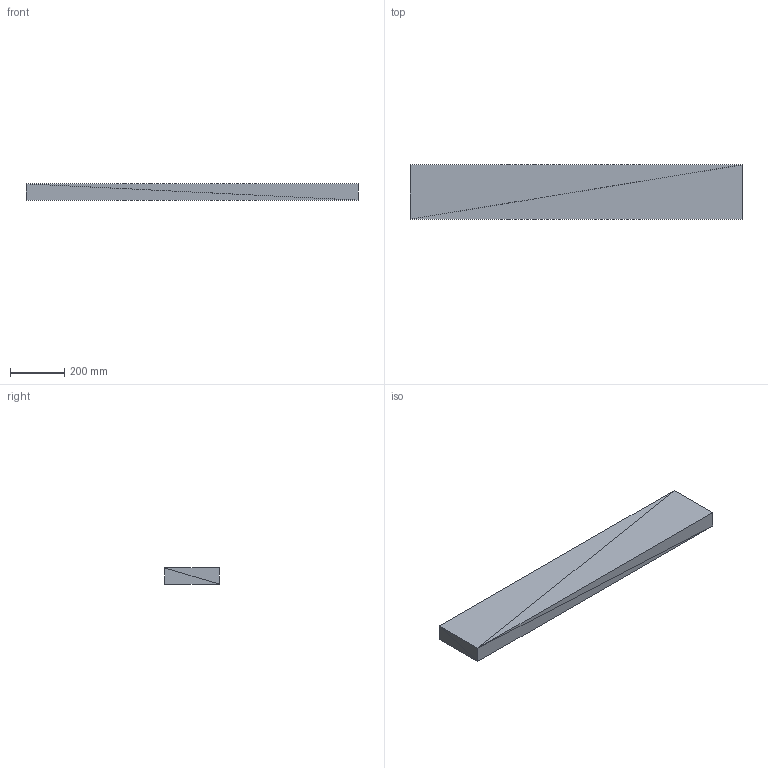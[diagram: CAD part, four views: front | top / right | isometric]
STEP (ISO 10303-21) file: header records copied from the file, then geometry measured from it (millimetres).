
FILE_DESCRIPTION(('ISINAC STEP AP214'),'2;1');
FILE_NAME('ISINAC_R.1220.200_60mm_ADHESIVO','2026-05-03T10:49:19',('ISINAC'),('www.isinac.com'),'ISINAC BIM Generator 1.0','','');
FILE_SCHEMA(('AUTOMOTIVE_DESIGN'));
Length unit declared in the file: millimetre
Products named in the file (1): ISINAC_R.1220.200_60mm_ADHESIVO
Bounding box: 1220 x 200 x 60 mm (x, y, z)
Surface area: 658400 mm2 (no closed solid volume)
Topology: 0 solids, 12 shells, 12 faces, 36 edges, 36 vertices
Faces by surface type: plane 12
Entity records: 145 total; most frequent: CARTESIAN_POINT 48, DIRECTION 24, POLY_LOOP 12, FACE_OUTER_BOUND 12, AXIS2_PLACEMENT_3D 12, PLANE 12, FACE_SURFACE 12, CLOSED_SHELL 1
